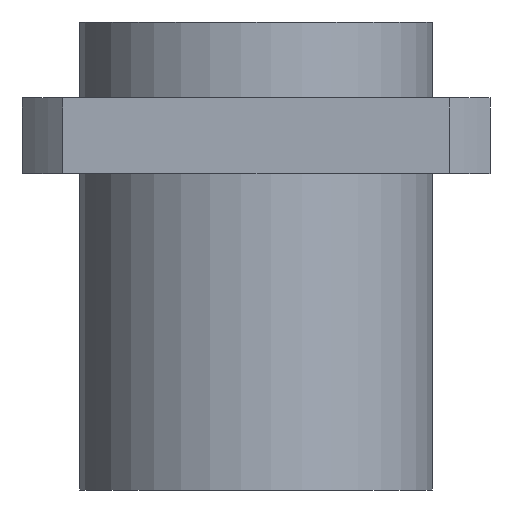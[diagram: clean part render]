
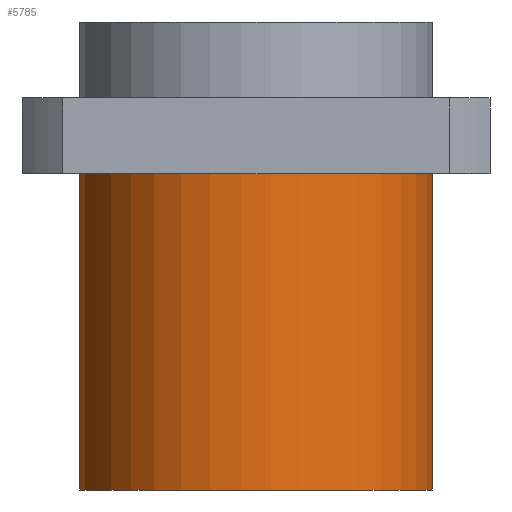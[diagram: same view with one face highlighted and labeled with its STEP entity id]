
A CAD part, front view. The second image highlights one B-rep face of the part: STEP entity #5785.
In plain terms, the highlighted cylindrical face has radius 14 mm (diameter 28 mm), a full revolution.
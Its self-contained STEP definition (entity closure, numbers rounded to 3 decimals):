
#87=CYLINDRICAL_SURFACE('',#6166,14.);
#107=CIRCLE('',#6134,14.);
#130=CIRCLE('',#6167,14.);
#559=ORIENTED_EDGE('',*,*,#2223,.T.);
#560=ORIENTED_EDGE('',*,*,#2068,.T.);
#2068=EDGE_CURVE('',#2904,#2904,#107,.F.);
#2223=EDGE_CURVE('',#3051,#3051,#130,.T.);
#2904=VERTEX_POINT('',#8510);
#3051=VERTEX_POINT('',#9181);
#4747=EDGE_LOOP('',(#559));
#4748=EDGE_LOOP('',(#560));
#5163=FACE_BOUND('',#4747,.T.);
#5164=FACE_BOUND('',#4748,.T.);
#5785=ADVANCED_FACE('',(#5163,#5164),#87,.T.);
#6134=AXIS2_PLACEMENT_3D('',#8509,#6553,#6554);
#6166=AXIS2_PLACEMENT_3D('',#9179,#6727,#6728);
#6167=AXIS2_PLACEMENT_3D('',#9180,#6729,#6730);
#6553=DIRECTION('',(0.,0.,1.));
#6554=DIRECTION('',(0.707,-0.707,0.));
#6727=DIRECTION('',(0.,0.,1.));
#6728=DIRECTION('',(0.707,-0.707,0.));
#6729=DIRECTION('',(0.,0.,1.));
#6730=DIRECTION('',(0.707,-0.707,0.));
#8509=CARTESIAN_POINT('',(0.,0.,-6.));
#8510=CARTESIAN_POINT('',(9.899,-9.899,-6.));
#9179=CARTESIAN_POINT('',(0.,0.,-31.));
#9180=CARTESIAN_POINT('',(0.,0.,-31.));
#9181=CARTESIAN_POINT('',(9.899,-9.899,-31.));
